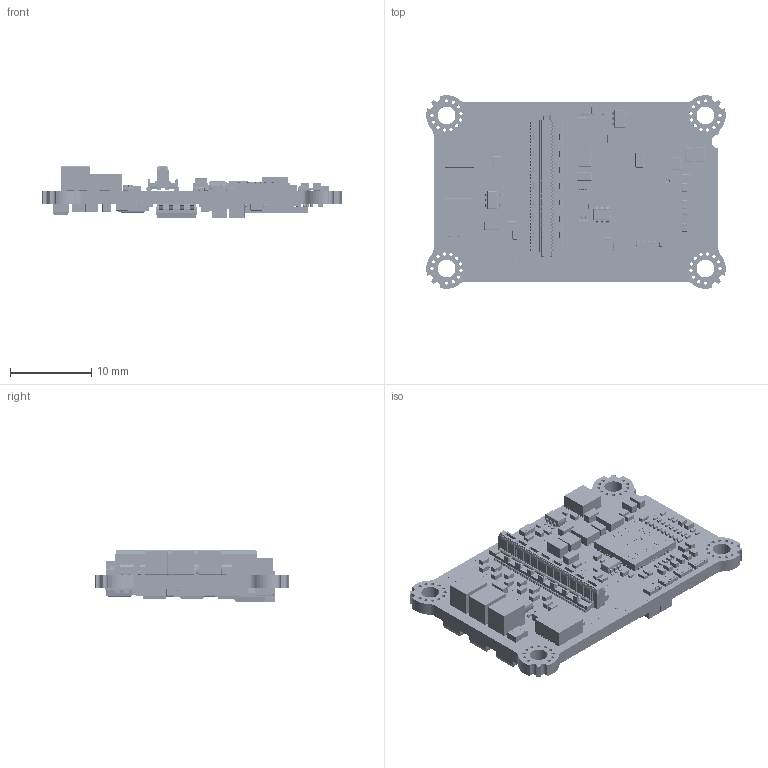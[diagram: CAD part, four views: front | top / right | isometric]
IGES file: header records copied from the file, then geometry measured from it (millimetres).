
Start section:  PTC IGES file: 809631_escon2_micro_60-5.igs
Global section: file name: 809631_escon2_micro_60-5.igs; native system: Creo Parametric by PTC Inc.; preprocessor: 2022484; author: MMAGGUKA; organization: Unknown; date: 20241010.155315; units: millimetre
Bounding box: 36.8 x 23.8 x 6.48 mm (x, y, z)
Surface area: 4464.2 mm2 (no closed solid volume)
Topology: 0 solids, 0 shells, 15770 faces, 103904 edges, 110720 vertices
Faces by surface type: bspline 10025, revolution 5628, extrusion 117
